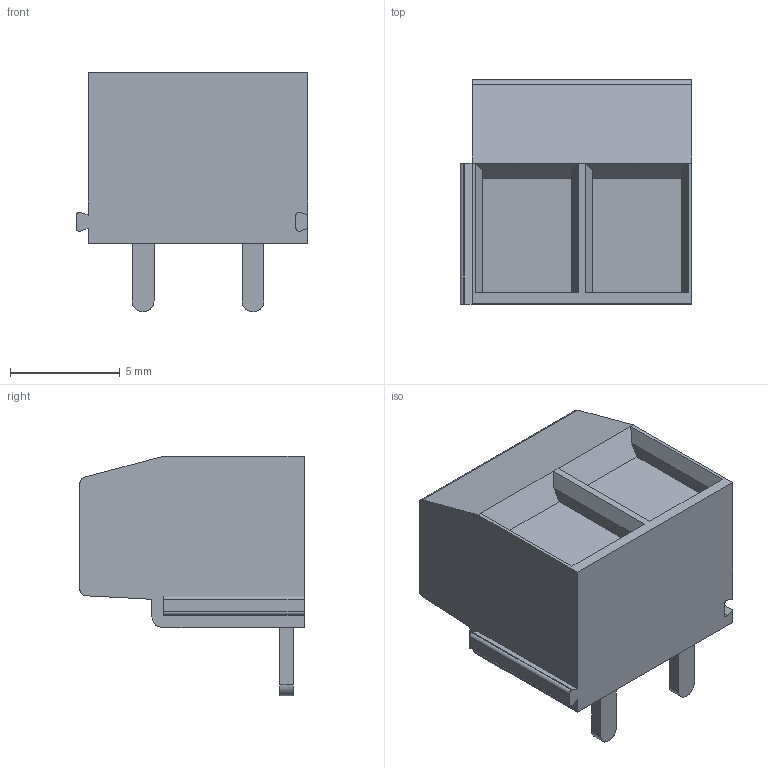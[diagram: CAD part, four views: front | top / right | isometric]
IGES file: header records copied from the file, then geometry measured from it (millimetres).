
Start section: SolidWorks IGES file using analytic representation for surfaces
Global section: file name: D:\OneDrive\00_MOITECH\01_Projects\2020\Metaltex\Modeling\Componentes\BR3\\_Dn\BR3R-02.IGS; native system: SolidWorks 2019; preprocessor: SolidWorks 2019; author: Alan; date: 200220.005504; units: millimetre
Bounding box: 10.55 x 10.2 x 10.9 mm (x, y, z)
Surface area: 674.3 mm2 (no closed solid volume)
Topology: 0 solids, 0 shells, 129 faces, 1006 edges, 1006 vertices
Faces by surface type: bspline 97, revolution 32
